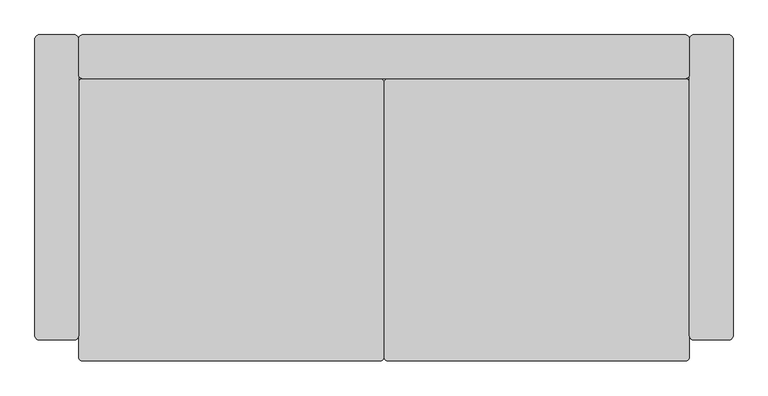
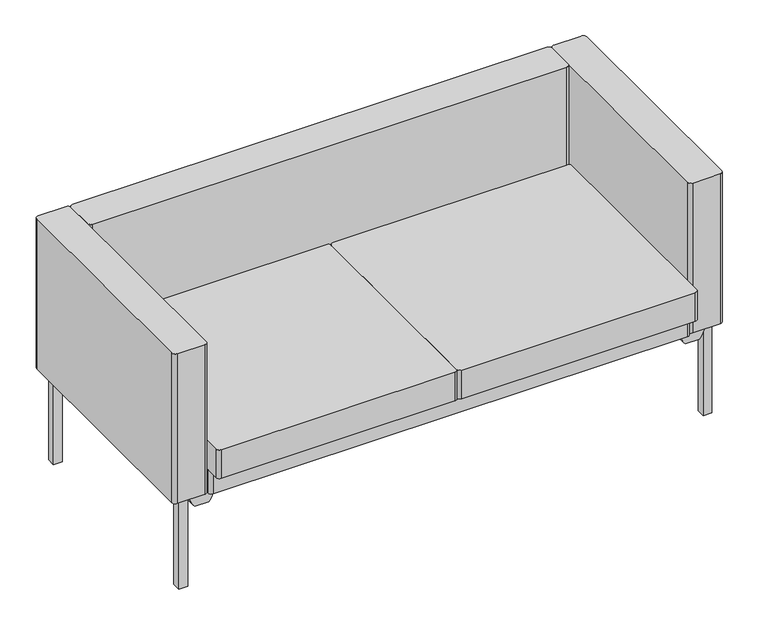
"""IFC4 building model written with IfcOpenShell, lengths in millimetres: furniture geometry, Sofá - COLAB - SF1600 : Sofá - COLAB - SF1600."""

from ifc_helpers import new_model, si_unit, point, frame, frame_2d, origin, place, context, project, spatial, polyline, circle_curve, trimmed, segment, composite_curve, outline, extrude, source, transform, mapped, element, save


def furniture_6b35aecf(model_context):
    return source(origin(), model_context, "Body", "SweptSolid", [
        extrude(outline(composite_curve([segment(polyline([(1499.9914928, 637.9181793), (1499.9914928, 10.0042536)]), True, "CONTINUOUS"), segment(trimmed(circle_curve(frame_2d((1489.9872392, 10.0042536)), 10.0042536), [point((1499.9914928, 10.0042536))], [point((1489.9872392, 0.0))], False, "CARTESIAN"), True, "CONTINUOUS"), segment(polyline([(1489.9872392, 0.0), (810.0042536, 0.0)]), True, "CONTINUOUS"), segment(trimmed(circle_curve(frame_2d((810.0042536, 10.0042536)), 10.0042536), [point((810.0042536, 0.0))], [point((800.0, 10.0042536))], False, "CARTESIAN"), True, "CONTINUOUS"), segment(polyline([(800.0, 10.0042536), (800.0, 637.9181793)]), True, "CONTINUOUS"), segment(trimmed(circle_curve(frame_2d((810.0042536, 637.9181793)), 10.0042536), [point((800.0, 637.9181793))], [point((810.0042536, 647.9224329))], False, "CARTESIAN"), True, "CONTINUOUS"), segment(polyline([(810.0042536, 647.9224329), (1489.9872392, 647.9224329)]), True, "CONTINUOUS"), segment(trimmed(circle_curve(frame_2d((1489.9872392, 637.9181793)), 10.0042536), [point((1489.9872392, 647.9224329))], [point((1499.9914928, 637.9181793))], False, "CARTESIAN"), True, "CONTINUOUS")], self_intersect=False)), frame((0.0, 0.0, 351.2139073), z_axis=(0.0, 0.0, 1.0), x_axis=(1.0, 0.0, 0.0)), (0.0, 0.0, 1.0), 87.7045649),
        extrude(outline(composite_curve([segment(polyline([(245.4830285, 1493.9503112), (245.4830285, 1534.8322871)]), True, "CONTINUOUS"), segment(trimmed(circle_curve(frame_2d((284.679009, 1494.1491931)), 56.4928227), [point((245.4830285, 1534.8322871))], [point((279.4554332, 1550.4))], False, "CARTESIAN"), True, "CONTINUOUS"), segment(polyline([(279.4554332, 1550.4), (279.4554332, 1478.3825983)]), True, "CONTINUOUS"), segment(trimmed(circle_curve(frame_2d((284.679009, 1534.6334051)), 56.4928227), [point((279.4554332, 1478.3825983))], [point((245.4830285, 1493.9503112))], False, "CARTESIAN"), True, "CONTINUOUS")], self_intersect=False)), frame((0.0, 57.3761937, 0.0), z_axis=(0.0, 1.0, 0.0), x_axis=(0.0, 0.0, 1.0)), (0.0, 0.0, 1.0), 68.8985394),
        extrude(outline(composite_curve([segment(polyline([(245.4830285, 65.8589331), (245.4830285, 106.740909)]), True, "CONTINUOUS"), segment(trimmed(circle_curve(frame_2d((284.679009, 66.057815)), 56.4928227), [point((245.4830285, 106.740909))], [point((279.4554332, 122.3086219))], False, "CARTESIAN"), True, "CONTINUOUS"), segment(polyline([(279.4554332, 122.3086219), (279.4554332, 50.2912202)]), True, "CONTINUOUS"), segment(trimmed(circle_curve(frame_2d((284.679009, 106.5420271)), 56.4928227), [point((279.4554332, 50.2912202))], [point((245.4830285, 65.8589331))], False, "CARTESIAN"), True, "CONTINUOUS")], self_intersect=False)), frame((0.0, 57.3761937, 0.0), z_axis=(0.0, 1.0, 0.0), x_axis=(0.0, 0.0, 1.0)), (0.0, 0.0, 1.0), 68.8985394),
        extrude(outline(composite_curve([segment(trimmed(circle_curve(frame_2d((110.0127608, 637.9181793)), 10.0042536), [point((100.0085072, 637.9181793))], [point((110.0127608, 647.9224329))], False, "CARTESIAN"), True, "CONTINUOUS"), segment(polyline([(110.0127608, 647.9224329), (1489.9872392, 647.9224329)]), True, "CONTINUOUS"), segment(trimmed(circle_curve(frame_2d((1489.9872392, 637.9181793)), 10.0042536), [point((1489.9872392, 647.9224329))], [point((1499.9914928, 637.9181793))], False, "CARTESIAN"), True, "CONTINUOUS"), segment(polyline([(1499.9914928, 637.9181793), (1499.9914928, 50.0042536)]), True, "CONTINUOUS"), segment(trimmed(circle_curve(frame_2d((1489.9872392, 50.0042536)), 10.0042536), [point((1499.9914928, 50.0042536))], [point((1489.9872392, 40.0))], False, "CARTESIAN"), True, "CONTINUOUS"), segment(polyline([(1489.9872392, 40.0), (110.0127608, 40.0)]), True, "CONTINUOUS"), segment(trimmed(circle_curve(frame_2d((110.0127608, 50.0042536)), 10.0042536), [point((110.0127608, 40.0))], [point((100.0085072, 50.0042536))], False, "CARTESIAN"), True, "CONTINUOUS"), segment(polyline([(100.0085072, 50.0042536), (100.0085072, 637.9181793)]), True, "CONTINUOUS")], self_intersect=False)), frame((0.0, 0.0, 279.4554332), z_axis=(0.0, 0.0, 1.0), x_axis=(1.0, 0.0, 0.0)), (0.0, 0.0, 1.0), 71.7584741),
        extrude(outline(composite_curve([segment(trimmed(circle_curve(frame_2d((110.0127608, 637.9181793)), 10.0042536), [point((100.0085072, 637.9181793))], [point((110.0127608, 647.9224329))], False, "CARTESIAN"), True, "CONTINUOUS"), segment(polyline([(110.0127608, 647.9224329), (789.9957464, 647.9224329)]), True, "CONTINUOUS"), segment(trimmed(circle_curve(frame_2d((789.9957464, 637.9181793)), 10.0042536), [point((789.9957464, 647.9224329))], [point((800.0, 637.9181793))], False, "CARTESIAN"), True, "CONTINUOUS"), segment(polyline([(800.0, 637.9181793), (800.0, 10.0042536)]), True, "CONTINUOUS"), segment(trimmed(circle_curve(frame_2d((789.9957464, 10.0042536)), 10.0042536), [point((800.0, 10.0042536))], [point((789.9957464, 0.0))], False, "CARTESIAN"), True, "CONTINUOUS"), segment(polyline([(789.9957464, 0.0), (110.0127608, 0.0)]), True, "CONTINUOUS"), segment(trimmed(circle_curve(frame_2d((110.0127608, 10.0042536)), 10.0042536), [point((110.0127608, 0.0))], [point((100.0085072, 10.0042536))], False, "CARTESIAN"), True, "CONTINUOUS"), segment(polyline([(100.0085072, 10.0042536), (100.0085072, 637.9181793)]), True, "CONTINUOUS")], self_intersect=False)), frame((0.0, 0.0, 351.2139073), z_axis=(0.0, 0.0, 1.0), x_axis=(1.0, 0.0, 0.0)), (0.0, 0.0, 1.0), 87.7045649),
        extrude(outline(composite_curve([segment(polyline([(100.0085072, 657.9266865), (100.0085072, 738.3509966)]), True, "CONTINUOUS"), segment(trimmed(circle_curve(frame_2d((110.0127608, 738.3509966)), 10.0042536), [point((100.0085072, 738.3509966))], [point((110.0127608, 748.3552502))], False, "CARTESIAN"), True, "CONTINUOUS"), segment(polyline([(110.0127608, 748.3552502), (1489.9872392, 748.3552502)]), True, "CONTINUOUS"), segment(trimmed(circle_curve(frame_2d((1489.9872392, 738.3509966)), 10.0042536), [point((1489.9872392, 748.3552502))], [point((1499.9914928, 738.3509966))], False, "CARTESIAN"), True, "CONTINUOUS"), segment(polyline([(1499.9914928, 738.3509966), (1499.9914928, 657.9266865)]), True, "CONTINUOUS"), segment(trimmed(circle_curve(frame_2d((1489.9872392, 657.9266865)), 10.0042536), [point((1499.9914928, 657.9266865))], [point((1489.9872392, 647.9224329))], False, "CARTESIAN"), True, "CONTINUOUS"), segment(polyline([(1489.9872392, 647.9224329), (110.0127608, 647.9224329)]), True, "CONTINUOUS"), segment(trimmed(circle_curve(frame_2d((110.0127608, 657.9266865)), 10.0042536), [point((110.0127608, 647.9224329))], [point((100.0085072, 657.9266865))], False, "CARTESIAN"), True, "CONTINUOUS")], self_intersect=False)), frame((0.0, 0.0, 279.4554332), z_axis=(0.0, 0.0, 1.0), x_axis=(1.0, 0.0, 0.0)), (0.0, 0.0, 1.0), 460.5445779),
        extrude(outline(composite_curve([segment(trimmed(circle_curve(frame_2d((1589.9957464, 58.3509966)), 10.0042536), [point((1600.0, 58.3509966))], [point((1589.9957464, 48.346743))], False, "CARTESIAN"), True, "CONTINUOUS"), segment(polyline([(1589.9957464, 48.346743), (1509.9957464, 48.346743)]), True, "CONTINUOUS"), segment(trimmed(circle_curve(frame_2d((1509.9957464, 58.3509966)), 10.0042536), [point((1509.9957464, 48.346743))], [point((1499.9914928, 58.3509966))], False, "CARTESIAN"), True, "CONTINUOUS"), segment(polyline([(1499.9914928, 58.3509966), (1499.9914928, 738.3509966)]), True, "CONTINUOUS"), segment(trimmed(circle_curve(frame_2d((1509.9957464, 738.3509966)), 10.0042536), [point((1499.9914928, 738.3509966))], [point((1509.9957464, 748.3552502))], False, "CARTESIAN"), True, "CONTINUOUS"), segment(polyline([(1509.9957464, 748.3552502), (1589.9957464, 748.3552502)]), True, "CONTINUOUS"), segment(trimmed(circle_curve(frame_2d((1589.9957464, 738.3509966)), 10.0042536), [point((1589.9957464, 748.3552502))], [point((1600.0, 738.3509966))], False, "CARTESIAN"), True, "CONTINUOUS"), segment(polyline([(1600.0, 738.3509966), (1600.0, 58.3509966)]), True, "CONTINUOUS")], self_intersect=False)), frame((0.0, 0.0, 279.4554332), z_axis=(0.0, 0.0, 1.0), x_axis=(1.0, 0.0, 0.0)), (0.0, 0.0, 1.0), 460.5445779),
        extrude(outline(composite_curve([segment(polyline([(0.0, 58.3509966), (0.0, 738.3509966)]), True, "CONTINUOUS"), segment(trimmed(circle_curve(frame_2d((10.0042536, 738.3509966)), 10.0042536), [point((0.0, 738.3509966))], [point((10.0042536, 748.3552502))], False, "CARTESIAN"), True, "CONTINUOUS"), segment(polyline([(10.0042536, 748.3552502), (90.0042536, 748.3552502)]), True, "CONTINUOUS"), segment(trimmed(circle_curve(frame_2d((90.0042536, 738.3509966)), 10.0042536), [point((90.0042536, 748.3552502))], [point((100.0085072, 738.3509966))], False, "CARTESIAN"), True, "CONTINUOUS"), segment(polyline([(100.0085072, 738.3509966), (100.0085072, 58.3509966)]), True, "CONTINUOUS"), segment(trimmed(circle_curve(frame_2d((90.0042536, 58.3509966)), 10.0042536), [point((100.0085072, 58.3509966))], [point((90.0042536, 48.346743))], False, "CARTESIAN"), True, "CONTINUOUS"), segment(polyline([(90.0042536, 48.346743), (10.0042536, 48.346743)]), True, "CONTINUOUS"), segment(trimmed(circle_curve(frame_2d((10.0042536, 58.3509966)), 10.0042536), [point((10.0042536, 48.346743))], [point((0.0, 58.3509966))], False, "CARTESIAN"), True, "CONTINUOUS")], self_intersect=False)), frame((0.0, 0.0, 279.4554332), z_axis=(0.0, 0.0, 1.0), x_axis=(1.0, 0.0, 0.0)), (0.0, 0.0, 1.0), 460.5445779),
        extrude(outline(polyline([(1550.4, 205.7247839), (1550.4, 180.7247839), (50.2912202, 180.7247839), (50.2912202, 205.7247839), (1550.4, 205.7247839)])), frame((0.0, 0.0, 254.4554332), z_axis=(0.0, 0.0, 1.0), x_axis=(1.0, 0.0, 0.0)), (0.0, 0.0, 1.0), 25.0),
        extrude(outline(polyline([(1550.4, 605.7247839), (1550.4, 580.7247839), (50.2912202, 580.7247839), (50.2912202, 605.7247839), (1550.4, 605.7247839)])), frame((0.0, 0.0, 254.4554332), z_axis=(0.0, 0.0, 1.0), x_axis=(1.0, 0.0, 0.0)), (0.0, 0.0, 1.0), 25.0),
        extrude(outline(polyline([(722.267688, 0.0), (697.267688, 0.0), (697.267688, 254.4554332), (90.2661464, 254.4554332), (90.2661464, 0.0), (65.2661464, 0.0), (65.2661464, 279.4554332), (722.267688, 279.4554332), (722.267688, 0.0)])), frame((1550.4, 0.0, 0.0), z_axis=(1.0, 0.0, 0.0), x_axis=(0.0, 1.0, 0.0)), (0.0, 0.0, 1.0), 25.0),
        extrude(outline(polyline([(722.267688, 0.0), (697.267688, 0.0), (697.267688, 254.4554332), (90.2661464, 254.4554332), (90.2661464, 0.0), (65.2661464, 0.0), (65.2661464, 279.4554332), (722.267688, 279.4554332), (722.267688, 0.0)])), frame((24.5609209, 0.0, 0.0), z_axis=(1.0, 0.0, 0.0), x_axis=(0.0, 1.0, 0.0)), (0.0, 0.0, 1.0), 25.7302993),
    ])


if __name__ == "__main__":
    model = new_model("IFC4")
    model_context = context("Model", 3, world=origin())
    ifc_project = project(units=[si_unit("LENGTHUNIT", "METRE", prefix="MILLI")], contexts=[model_context])
    site = spatial("IfcSite", under=ifc_project)
    building = spatial("IfcBuilding", under=site)
    placement = place(None, origin())
    furniture_shape = furniture_6b35aecf(model_context)
    element("IfcFurniture", 1, ObjectType="Sofá - COLAB - SF1600 : Sofá - COLAB - SF1600", at=placement, inside=building, context=model_context, shape_type="MappedRepresentation", body=[
        mapped(furniture_shape, transform((0.0, 0.0, 0.0), x_axis=(1.0, 0.0, 0.0), y_axis=(0.0, 1.0, 0.0), z_axis=(0.0, 0.0, 1.0))),
    ])
    save(model, "model.ifc")
